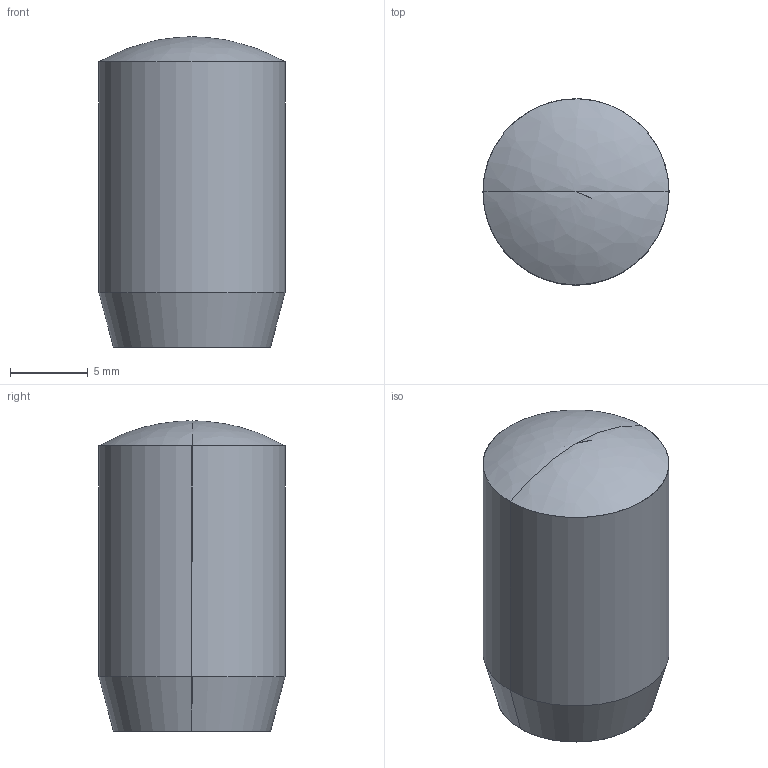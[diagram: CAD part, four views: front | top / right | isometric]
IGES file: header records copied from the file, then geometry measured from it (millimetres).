
Global section: file name: E:\UnigraphicsGraphicData\MISUMI_PRESS-PARTS\IGES\3d_ms12-20_00427_r00.igs; native system: NX V5.0; preprocessor: UGS NX IGES V5.0; author: MISUMI; date: 20110105.161512; units: millimetre
Bounding box: 12 x 12 x 20 mm (x, y, z)
Surface area: 889.3 mm2 (no closed solid volume)
Topology: 0 solids, 0 shells, 7 faces, 32 edges, 30 vertices
Faces by surface type: bspline 7
